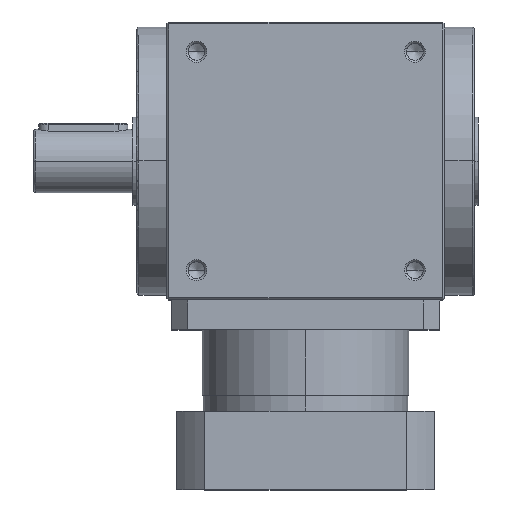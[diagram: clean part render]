
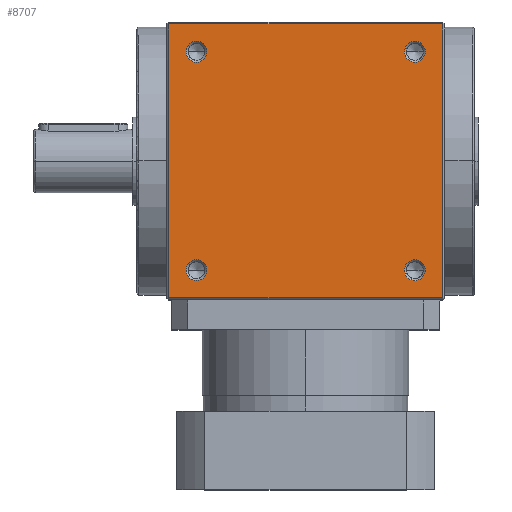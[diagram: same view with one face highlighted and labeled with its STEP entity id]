
A CAD part, top view. The second image highlights one B-rep face of the part: STEP entity #8707.
In plain terms, the highlighted planar face has unit normal (0, 0, 1).
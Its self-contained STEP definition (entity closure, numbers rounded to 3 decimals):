
#161 = VECTOR ( 'NONE', #5526, 1000. ) ;
#217 = CARTESIAN_POINT ( 'NONE',  ( 49.75, -55., 70. ) ) ;
#234 = CARTESIAN_POINT ( 'NONE',  ( 60.25, -55., 70. ) ) ;
#462 = CARTESIAN_POINT ( 'NONE',  ( 69., 69., 70. ) ) ;
#465 = AXIS2_PLACEMENT_3D ( 'NONE', #3438, #3425, #3416 ) ;
#468 = DIRECTION ( 'NONE',  ( -1., 0., 0. ) ) ;
#587 = EDGE_CURVE ( 'NONE', #9254, #5962, #10328, .T. ) ;
#906 = EDGE_CURVE ( 'NONE', #5962, #9254, #908, .T. ) ;
#908 = CIRCLE ( 'NONE', #1348, 5.25 ) ;
#938 = ORIENTED_EDGE ( 'NONE', *, *, #11521, .T. ) ;
#1348 = AXIS2_PLACEMENT_3D ( 'NONE', #10330, #11591, #11547 ) ;
#1501 = EDGE_CURVE ( 'NONE', #10213, #10591, #10876, .T. ) ;
#1592 = EDGE_CURVE ( 'NONE', #9213, #7056, #7857, .T. ) ;
#1867 = EDGE_LOOP ( 'NONE', ( #9186, #3728, #5816, #938 ) ) ;
#1925 = VERTEX_POINT ( 'NONE', #3146 ) ;
#2157 = DIRECTION ( 'NONE',  ( 0., 1., 0. ) ) ;
#2456 = ORIENTED_EDGE ( 'NONE', *, *, #587, .F. ) ;
#2504 = EDGE_CURVE ( 'NONE', #3062, #6760, #4351, .T. ) ;
#2596 = EDGE_CURVE ( 'NONE', #7056, #9213, #5351, .T. ) ;
#2782 = EDGE_LOOP ( 'NONE', ( #3447, #5828 ) ) ;
#2846 = AXIS2_PLACEMENT_3D ( 'NONE', #10158, #10337, #10764 ) ;
#3062 = VERTEX_POINT ( 'NONE', #7071 ) ;
#3100 = CARTESIAN_POINT ( 'NONE',  ( 60.25, 55., 70. ) ) ;
#3146 = CARTESIAN_POINT ( 'NONE',  ( 49.75, 55., 70. ) ) ;
#3416 = DIRECTION ( 'NONE',  ( 1., 0., 0. ) ) ;
#3425 = DIRECTION ( 'NONE',  ( 0., 0., 1. ) ) ;
#3438 = CARTESIAN_POINT ( 'NONE',  ( -55., -55., 70. ) ) ;
#3447 = ORIENTED_EDGE ( 'NONE', *, *, #1501, .F. ) ;
#3642 = ORIENTED_EDGE ( 'NONE', *, *, #1592, .F. ) ;
#3671 = DIRECTION ( 'NONE',  ( 1., 0., 0. ) ) ;
#3714 = DIRECTION ( 'NONE',  ( 0., 0., 1. ) ) ;
#3728 = ORIENTED_EDGE ( 'NONE', *, *, #7579, .T. ) ;
#4027 = FACE_OUTER_BOUND ( 'NONE', #1867, .T. ) ;
#4351 = LINE ( 'NONE', #6166, #6411 ) ;
#4515 = CIRCLE ( 'NONE', #6941, 5.25 ) ;
#4538 = EDGE_CURVE ( 'NONE', #9804, #1925, #4515, .T. ) ;
#4547 = DIRECTION ( 'NONE',  ( 1., 0., 0. ) ) ;
#4991 = AXIS2_PLACEMENT_3D ( 'NONE', #8701, #9584, #9310 ) ;
#5064 = AXIS2_PLACEMENT_3D ( 'NONE', #9292, #3714, #3671 ) ;
#5065 = LINE ( 'NONE', #5604, #161 ) ;
#5075 = CIRCLE ( 'NONE', #9333, 5.25 ) ;
#5194 = CARTESIAN_POINT ( 'NONE',  ( -55., 55., 70. ) ) ;
#5234 = DIRECTION ( 'NONE',  ( 0., 0., 1. ) ) ;
#5266 = DIRECTION ( 'NONE',  ( 1., 0., 0. ) ) ;
#5351 = CIRCLE ( 'NONE', #7332, 5.25 ) ;
#5405 = CARTESIAN_POINT ( 'NONE',  ( -60.25, -55., 70. ) ) ;
#5517 = CARTESIAN_POINT ( 'NONE',  ( -49.75, -55., 70. ) ) ;
#5526 = DIRECTION ( 'NONE',  ( 0., -1., 0. ) ) ;
#5604 = CARTESIAN_POINT ( 'NONE',  ( -69., 69., 70. ) ) ;
#5816 = ORIENTED_EDGE ( 'NONE', *, *, #2504, .T. ) ;
#5828 = ORIENTED_EDGE ( 'NONE', *, *, #7800, .F. ) ;
#5962 = VERTEX_POINT ( 'NONE', #234 ) ;
#6166 = CARTESIAN_POINT ( 'NONE',  ( -69., -69., 70. ) ) ;
#6236 = DIRECTION ( 'NONE',  ( 0., 0., 1. ) ) ;
#6344 = VERTEX_POINT ( 'NONE', #8242 ) ;
#6345 = ORIENTED_EDGE ( 'NONE', *, *, #2596, .F. ) ;
#6346 = FACE_BOUND ( 'NONE', #9727, .T. ) ;
#6411 = VECTOR ( 'NONE', #5266, 1000. ) ;
#6471 = ORIENTED_EDGE ( 'NONE', *, *, #906, .F. ) ;
#6592 = CARTESIAN_POINT ( 'NONE',  ( 69., 69., 70. ) ) ;
#6616 = DIRECTION ( 'NONE',  ( 1., 0., 0. ) ) ;
#6635 = DIRECTION ( 'NONE',  ( 0., 0., 1. ) ) ;
#6636 = CARTESIAN_POINT ( 'NONE',  ( 55., 55., 70. ) ) ;
#6760 = VERTEX_POINT ( 'NONE', #10737 ) ;
#6941 = AXIS2_PLACEMENT_3D ( 'NONE', #8802, #8754, #8752 ) ;
#6958 = CARTESIAN_POINT ( 'NONE',  ( -55., 55., 70. ) ) ;
#7056 = VERTEX_POINT ( 'NONE', #8835 ) ;
#7071 = CARTESIAN_POINT ( 'NONE',  ( -69., -69., 70. ) ) ;
#7332 = AXIS2_PLACEMENT_3D ( 'NONE', #6958, #6236, #10383 ) ;
#7406 = EDGE_CURVE ( 'NONE', #1925, #9804, #5075, .T. ) ;
#7469 = CARTESIAN_POINT ( 'NONE',  ( 69., -69., 70. ) ) ;
#7478 = LINE ( 'NONE', #7469, #9501 ) ;
#7579 = EDGE_CURVE ( 'NONE', #6344, #3062, #5065, .T. ) ;
#7800 = EDGE_CURVE ( 'NONE', #10591, #10213, #8410, .T. ) ;
#7857 = CIRCLE ( 'NONE', #8042, 5.25 ) ;
#7907 = ORIENTED_EDGE ( 'NONE', *, *, #4538, .F. ) ;
#8042 = AXIS2_PLACEMENT_3D ( 'NONE', #5194, #5234, #4547 ) ;
#8242 = CARTESIAN_POINT ( 'NONE',  ( -69., 69., 70. ) ) ;
#8275 = EDGE_CURVE ( 'NONE', #10856, #6344, #10448, .T. ) ;
#8410 = CIRCLE ( 'NONE', #465, 5.25 ) ;
#8657 = FACE_BOUND ( 'NONE', #2782, .T. ) ;
#8701 = CARTESIAN_POINT ( 'NONE',  ( -55., -55., 70. ) ) ;
#8707 = ADVANCED_FACE ( 'NONE', ( #11017, #8920, #8657, #6346, #4027 ), #8884, .F. ) ;
#8752 = DIRECTION ( 'NONE',  ( 1., 0., 0. ) ) ;
#8754 = DIRECTION ( 'NONE',  ( 0., 0., 1. ) ) ;
#8802 = CARTESIAN_POINT ( 'NONE',  ( 55., 55., 70. ) ) ;
#8835 = CARTESIAN_POINT ( 'NONE',  ( -60.25, 55., 70. ) ) ;
#8884 = PLANE ( 'NONE',  #2846 ) ;
#8920 = FACE_BOUND ( 'NONE', #10038, .T. ) ;
#8932 = EDGE_LOOP ( 'NONE', ( #3642, #6345 ) ) ;
#9186 = ORIENTED_EDGE ( 'NONE', *, *, #8275, .T. ) ;
#9213 = VERTEX_POINT ( 'NONE', #9736 ) ;
#9254 = VERTEX_POINT ( 'NONE', #217 ) ;
#9292 = CARTESIAN_POINT ( 'NONE',  ( 55., -55., 70. ) ) ;
#9310 = DIRECTION ( 'NONE',  ( 1., 0., 0. ) ) ;
#9333 = AXIS2_PLACEMENT_3D ( 'NONE', #6636, #6635, #6616 ) ;
#9501 = VECTOR ( 'NONE', #2157, 1000. ) ;
#9584 = DIRECTION ( 'NONE',  ( 0., 0., 1. ) ) ;
#9615 = ORIENTED_EDGE ( 'NONE', *, *, #7406, .F. ) ;
#9727 = EDGE_LOOP ( 'NONE', ( #6471, #2456 ) ) ;
#9736 = CARTESIAN_POINT ( 'NONE',  ( -49.75, 55., 70. ) ) ;
#9804 = VERTEX_POINT ( 'NONE', #3100 ) ;
#10038 = EDGE_LOOP ( 'NONE', ( #7907, #9615 ) ) ;
#10158 = CARTESIAN_POINT ( 'NONE',  ( 69., -69., 70. ) ) ;
#10179 = VECTOR ( 'NONE', #468, 1000. ) ;
#10213 = VERTEX_POINT ( 'NONE', #5517 ) ;
#10328 = CIRCLE ( 'NONE', #5064, 5.25 ) ;
#10330 = CARTESIAN_POINT ( 'NONE',  ( 55., -55., 70. ) ) ;
#10337 = DIRECTION ( 'NONE',  ( 0., 0., -1. ) ) ;
#10383 = DIRECTION ( 'NONE',  ( 1., 0., 0. ) ) ;
#10448 = LINE ( 'NONE', #462, #10179 ) ;
#10591 = VERTEX_POINT ( 'NONE', #5405 ) ;
#10737 = CARTESIAN_POINT ( 'NONE',  ( 69., -69., 70. ) ) ;
#10764 = DIRECTION ( 'NONE',  ( -1., 0., 0. ) ) ;
#10856 = VERTEX_POINT ( 'NONE', #6592 ) ;
#10876 = CIRCLE ( 'NONE', #4991, 5.25 ) ;
#11017 = FACE_BOUND ( 'NONE', #8932, .T. ) ;
#11521 = EDGE_CURVE ( 'NONE', #6760, #10856, #7478, .T. ) ;
#11547 = DIRECTION ( 'NONE',  ( 1., 0., 0. ) ) ;
#11591 = DIRECTION ( 'NONE',  ( 0., 0., 1. ) ) ;
